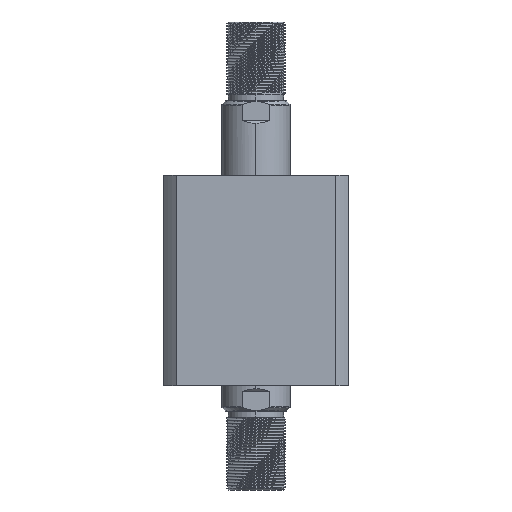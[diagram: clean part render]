
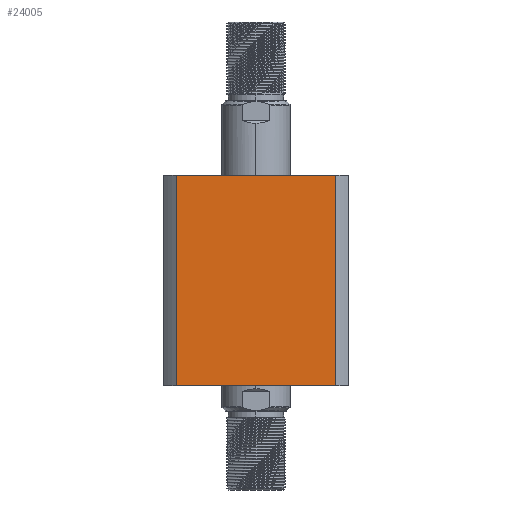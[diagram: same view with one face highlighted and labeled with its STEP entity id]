
A CAD part, left-side view. The second image highlights one B-rep face of the part: STEP entity #24005.
In plain terms, the highlighted planar face has unit normal (-1, 0, 0).
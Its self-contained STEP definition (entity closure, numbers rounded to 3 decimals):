
#2064 = PLANE ( 'NONE',  #21065 ) ;
#4231 = CARTESIAN_POINT ( 'NONE',  ( -47., 47., 107. ) ) ;
#4477 = CARTESIAN_POINT ( 'NONE',  ( -47., 40.435, 107. ) ) ;
#4600 = EDGE_CURVE ( 'NONE', #15711, #7940, #8426, .T. ) ;
#4766 = EDGE_CURVE ( 'NONE', #11330, #9339, #7759, .T. ) ;
#6423 = CARTESIAN_POINT ( 'NONE',  ( -47., -40.435, 107. ) ) ;
#6469 = CARTESIAN_POINT ( 'NONE',  ( -47., 40.435, 0. ) ) ;
#6822 = CARTESIAN_POINT ( 'NONE',  ( -47., 47., 107. ) ) ;
#7759 = LINE ( 'NONE', #9451, #12099 ) ;
#7854 = CARTESIAN_POINT ( 'NONE',  ( -47., -40.435, 0. ) ) ;
#7940 = VERTEX_POINT ( 'NONE', #6423 ) ;
#8426 = LINE ( 'NONE', #6822, #24720 ) ;
#8528 = DIRECTION ( 'NONE',  ( 1., 0., 0. ) ) ;
#9080 = DIRECTION ( 'NONE',  ( 0., -1., 0. ) ) ;
#9339 = VERTEX_POINT ( 'NONE', #7854 ) ;
#9451 = CARTESIAN_POINT ( 'NONE',  ( -47., 47., 0. ) ) ;
#11054 = ORIENTED_EDGE ( 'NONE', *, *, #4600, .F. ) ;
#11330 = VERTEX_POINT ( 'NONE', #6469 ) ;
#12099 = VECTOR ( 'NONE', #15853, 1000. ) ;
#13057 = ORIENTED_EDGE ( 'NONE', *, *, #17747, .F. ) ;
#15711 = VERTEX_POINT ( 'NONE', #4477 ) ;
#15853 = DIRECTION ( 'NONE',  ( 0., -1., 0. ) ) ;
#17747 = EDGE_CURVE ( 'NONE', #7940, #9339, #22479, .T. ) ;
#17906 = LINE ( 'NONE', #21810, #22872 ) ;
#18415 = FACE_OUTER_BOUND ( 'NONE', #21252, .T. ) ;
#20090 = CARTESIAN_POINT ( 'NONE',  ( -47., -40.435, 300. ) ) ;
#21065 = AXIS2_PLACEMENT_3D ( 'NONE', #4231, #8528, #23382 ) ;
#21252 = EDGE_LOOP ( 'NONE', ( #13057, #11054, #26021, #23325 ) ) ;
#21810 = CARTESIAN_POINT ( 'NONE',  ( -47., 40.435, 300. ) ) ;
#22479 = LINE ( 'NONE', #20090, #27468 ) ;
#22490 = DIRECTION ( 'NONE',  ( 0., 0., -1. ) ) ;
#22872 = VECTOR ( 'NONE', #23948, 1000. ) ;
#23325 = ORIENTED_EDGE ( 'NONE', *, *, #4766, .T. ) ;
#23382 = DIRECTION ( 'NONE',  ( 0., 1., 0. ) ) ;
#23948 = DIRECTION ( 'NONE',  ( 0., 0., 1. ) ) ;
#24005 = ADVANCED_FACE ( 'NONE', ( #18415 ), #2064, .F. ) ;
#24720 = VECTOR ( 'NONE', #9080, 1000. ) ;
#26016 = EDGE_CURVE ( 'NONE', #11330, #15711, #17906, .T. ) ;
#26021 = ORIENTED_EDGE ( 'NONE', *, *, #26016, .F. ) ;
#27468 = VECTOR ( 'NONE', #22490, 1000. ) ;
